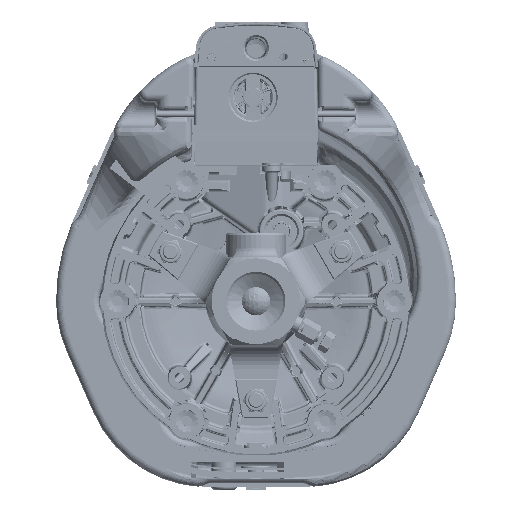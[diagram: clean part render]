
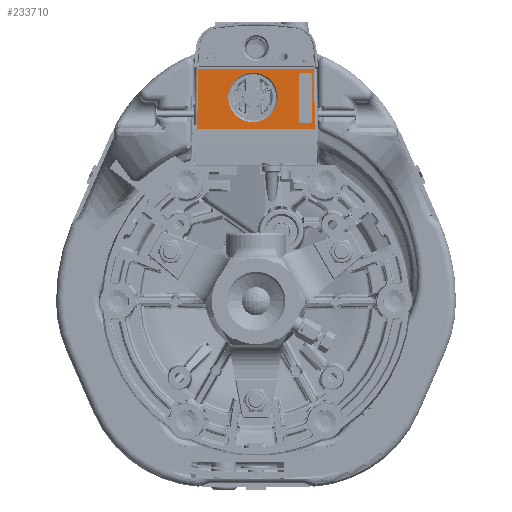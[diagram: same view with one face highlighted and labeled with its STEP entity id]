
A CAD part, front view. The second image highlights one B-rep face of the part: STEP entity #233710.
In plain terms, the highlighted planar face has unit normal (0, -1, 0).
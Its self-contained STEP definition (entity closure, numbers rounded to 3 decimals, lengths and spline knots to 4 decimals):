
#222741=DIRECTION('',(1.,0.,0.));
#222742=VECTOR('',#222741,4.7435);
#222743=CARTESIAN_POINT('',(-2.3688,-5.5,6.94));
#222744=LINE('',#222743,#222742);
#222745=DIRECTION('',(-0.017,0.,1.));
#222746=VECTOR('',#222745,0.185);
#222747=CARTESIAN_POINT('',(-2.3688,-5.5,6.94));
#222748=LINE('',#222747,#222746);
#222749=DIRECTION('',(-0.017,0.,-1.));
#222750=VECTOR('',#222749,2.2703);
#222751=CARTESIAN_POINT('',(-2.3324,-5.5,9.395));
#222752=LINE('',#222751,#222750);
#222753=DIRECTION('',(1.,0.,0.));
#222754=VECTOR('',#222753,4.6707);
#222755=CARTESIAN_POINT('',(-2.3324,-5.5,9.395));
#222756=LINE('',#222755,#222754);
#222757=DIRECTION('',(-0.017,0.,1.));
#222758=VECTOR('',#222757,2.2703);
#222759=CARTESIAN_POINT('',(2.378,-5.5,7.125));
#222760=LINE('',#222759,#222758);
#222761=DIRECTION('',(-0.017,0.,-1.));
#222762=VECTOR('',#222761,0.185);
#222763=CARTESIAN_POINT('',(2.378,-5.5,7.125));
#222764=LINE('',#222763,#222762);
#222765=CARTESIAN_POINT('',(-0.122,-5.5,8.232));
#222766=DIRECTION('',(0.,1.,0.));
#222767=DIRECTION('',(0.,0.,1.));
#222768=AXIS2_PLACEMENT_3D('',#222765,#222766,#222767);
#222770=CARTESIAN_POINT('',(-0.122,-5.5,8.232));
#222771=DIRECTION('',(0.,1.,0.));
#222772=DIRECTION('',(0.,0.,-1.));
#222773=AXIS2_PLACEMENT_3D('',#222770,#222771,#222772);
#227037=CARTESIAN_POINT('',(-2.3324,-5.5,9.395));
#227039=CARTESIAN_POINT('',(-2.372,-5.5,7.125));
#227069=CARTESIAN_POINT('',(2.378,-5.5,7.125));
#232091=VERTEX_POINT('',#227039);
#232093=VERTEX_POINT('',#227069);
#232441=VERTEX_POINT('',#227037);
#232442=CARTESIAN_POINT('',(2.3384,-5.5,9.395));
#232443=VERTEX_POINT('',#232442);
#232471=CARTESIAN_POINT('',(-2.3688,-5.5,6.94));
#232472=CARTESIAN_POINT('',(2.3748,-5.5,6.94));
#232473=VERTEX_POINT('',#232471);
#232474=VERTEX_POINT('',#232472);
#232680=CARTESIAN_POINT('',(-0.122,-5.5,9.2305));
#232681=CARTESIAN_POINT('',(-0.122,-5.5,7.2335));
#232682=VERTEX_POINT('',#232680);
#232683=VERTEX_POINT('',#232681);
#233685=CARTESIAN_POINT('',(-0.122,-5.5,8.175));
#233686=DIRECTION('',(0.,-1.,0.));
#233687=DIRECTION('',(1.,0.,0.));
#233688=AXIS2_PLACEMENT_3D('',#233685,#233686,#233687);
#233689=PLANE('',#233688);
#233691=ORIENTED_EDGE('',*,*,#233690,.F.);
#233693=ORIENTED_EDGE('',*,*,#233692,.T.);
#233695=ORIENTED_EDGE('',*,*,#233694,.F.);
#233697=ORIENTED_EDGE('',*,*,#233696,.T.);
#233699=ORIENTED_EDGE('',*,*,#233698,.F.);
#233701=ORIENTED_EDGE('',*,*,#233700,.T.);
#233702=EDGE_LOOP('',(#233691,#233693,#233695,#233697,#233699,#233701));
#233703=FACE_OUTER_BOUND('',#233702,.F.);
#233705=ORIENTED_EDGE('',*,*,#233704,.F.);
#233707=ORIENTED_EDGE('',*,*,#233706,.F.);
#233708=EDGE_LOOP('',(#233705,#233707));
#233709=FACE_BOUND('',#233708,.F.);
#233710=ADVANCED_FACE('',(#233703,#233709),#233689,.T.);
#222769=CIRCLE('',#222768,0.9985);
#222774=CIRCLE('',#222773,0.9985);
#233690=EDGE_CURVE('',#232473,#232474,#222744,.T.);
#233692=EDGE_CURVE('',#232473,#232091,#222748,.T.);
#233694=EDGE_CURVE('',#232441,#232091,#222752,.T.);
#233696=EDGE_CURVE('',#232441,#232443,#222756,.T.);
#233698=EDGE_CURVE('',#232093,#232443,#222760,.T.);
#233700=EDGE_CURVE('',#232093,#232474,#222764,.T.);
#233704=EDGE_CURVE('',#232682,#232683,#222769,.T.);
#233706=EDGE_CURVE('',#232683,#232682,#222774,.T.);
